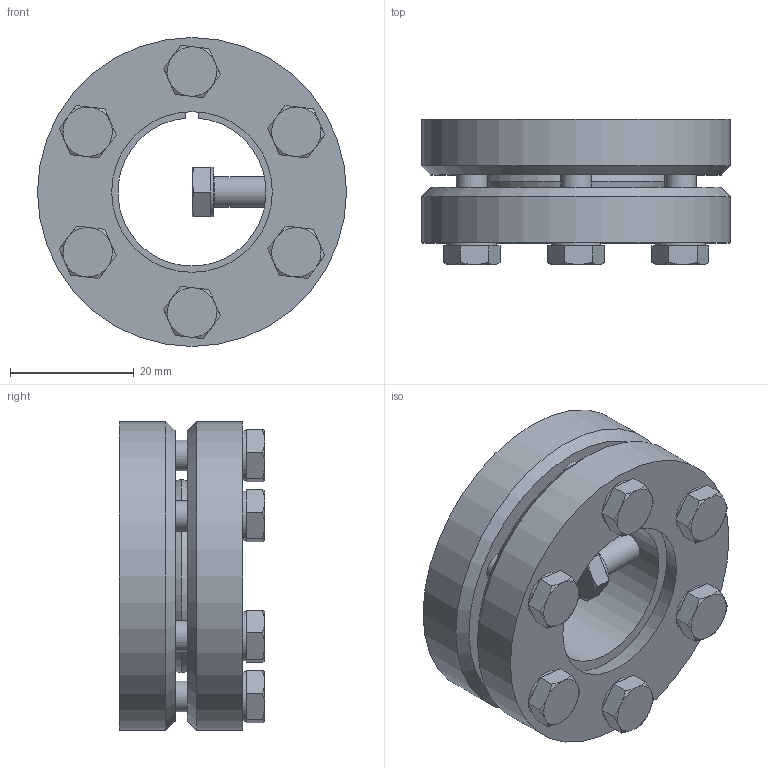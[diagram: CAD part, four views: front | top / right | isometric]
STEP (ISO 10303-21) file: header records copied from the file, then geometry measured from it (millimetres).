
FILE_DESCRIPTION( ( 'Unknown' ), '1' );
FILE_NAME( 'C:/Dokumente und Einstellungen/Sven/Desktop/homepage/cad - homepage/KBS19/KBS 19 - 24 x 50.stp', 'Unknown', ( 'Unknown' ), ( 'Unknown' ), 'XStep 1.0', 'Unknown', ' ' );
FILE_SCHEMA( ( 'automotive_design' ) );
Length unit declared in the file: millimetre
Products named in the file (3): Assem1; KBS 19 - 24 x 50; ISO 4017 - M5 x 16-N
Bounding box: 50 x 23.5 x 50 mm (x, y, z)
Volume: 52720.3 mm3; surface area: 25561.4 mm2
Topology: 9 solids, 9 shells, 245 faces, 572 edges, 352 vertices
Faces by surface type: plane 133, cone 61, cylinder 44, torus 7
Full cylindrical faces by diameter (mm): 5 x31, 8 x7, 50 x4
Entity records: 2034 total; most frequent: CARTESIAN_POINT 325, DIRECTION 298, ORIENTED_EDGE 236, AXIS2_PLACEMENT_3D 128, EDGE_CURVE 118, EDGE_LOOP 111, VERTEX_POINT 85, FACE_OUTER_BOUND 77
